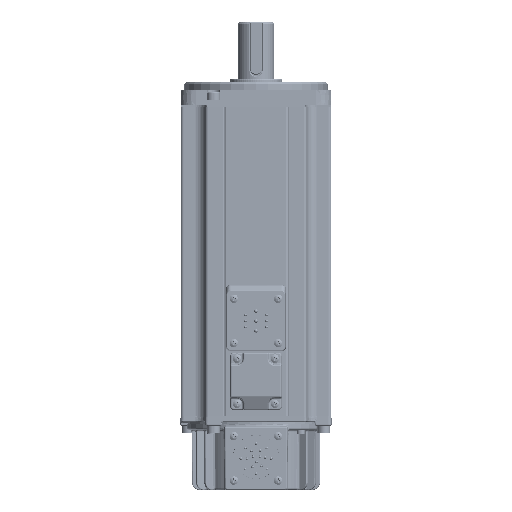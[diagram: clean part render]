
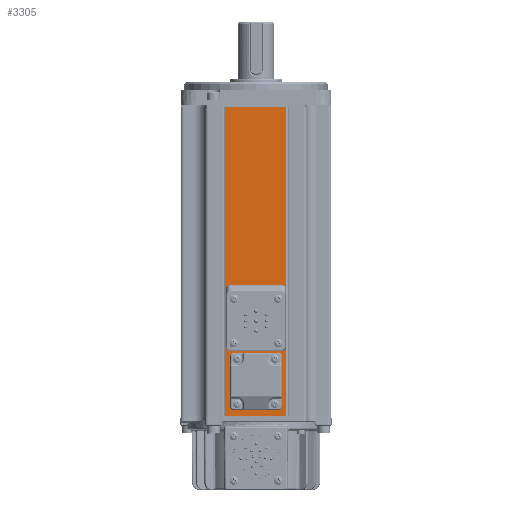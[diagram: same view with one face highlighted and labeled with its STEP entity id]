
A CAD part, front view. The second image highlights one B-rep face of the part: STEP entity #3305.
In plain terms, the highlighted planar face has unit normal (0, -1, 0).
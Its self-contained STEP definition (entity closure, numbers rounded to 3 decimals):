
#82=CARTESIAN_POINT('',(12.5,-50.,38.));
#83=DIRECTION('',(0.,1.,0.));
#84=DIRECTION('',(0.,0.,-1.));
#85=AXIS2_PLACEMENT_3D('',#82,#83,#84);
#87=CARTESIAN_POINT('',(12.5,-50.,38.));
#88=DIRECTION('',(0.,1.,0.));
#89=DIRECTION('',(0.,0.,1.));
#90=AXIS2_PLACEMENT_3D('',#87,#88,#89);
#92=CARTESIAN_POINT('',(-12.5,-50.,38.));
#93=DIRECTION('',(0.,1.,0.));
#94=DIRECTION('',(0.,0.,-1.));
#95=AXIS2_PLACEMENT_3D('',#92,#93,#94);
#97=CARTESIAN_POINT('',(-12.5,-50.,38.));
#98=DIRECTION('',(0.,1.,0.));
#99=DIRECTION('',(0.,0.,1.));
#100=AXIS2_PLACEMENT_3D('',#97,#98,#99);
#102=CARTESIAN_POINT('',(12.5,-50.,8.));
#103=DIRECTION('',(0.,1.,0.));
#104=DIRECTION('',(0.,0.,-1.));
#105=AXIS2_PLACEMENT_3D('',#102,#103,#104);
#107=CARTESIAN_POINT('',(12.5,-50.,8.));
#108=DIRECTION('',(0.,1.,0.));
#109=DIRECTION('',(0.,0.,1.));
#110=AXIS2_PLACEMENT_3D('',#107,#108,#109);
#112=CARTESIAN_POINT('',(-12.5,-50.,8.));
#113=DIRECTION('',(0.,1.,0.));
#114=DIRECTION('',(0.,0.,-1.));
#115=AXIS2_PLACEMENT_3D('',#112,#113,#114);
#117=CARTESIAN_POINT('',(-12.5,-50.,8.));
#118=DIRECTION('',(0.,1.,0.));
#119=DIRECTION('',(0.,0.,1.));
#120=AXIS2_PLACEMENT_3D('',#117,#118,#119);
#122=CARTESIAN_POINT('',(0.,-50.,31.5));
#123=DIRECTION('',(0.,1.,0.));
#124=DIRECTION('',(1.,0.,0.));
#125=AXIS2_PLACEMENT_3D('',#122,#123,#124);
#127=CARTESIAN_POINT('',(0.,-50.,31.5));
#128=DIRECTION('',(0.,1.,0.));
#129=DIRECTION('',(-1.,0.,0.));
#130=AXIS2_PLACEMENT_3D('',#127,#128,#129);
#132=CARTESIAN_POINT('',(0.,-50.,63.));
#133=DIRECTION('',(0.,1.,0.));
#134=DIRECTION('',(1.,0.,0.));
#135=AXIS2_PLACEMENT_3D('',#132,#133,#134);
#137=CARTESIAN_POINT('',(0.,-50.,63.));
#138=DIRECTION('',(0.,1.,0.));
#139=DIRECTION('',(-1.,0.,0.));
#140=AXIS2_PLACEMENT_3D('',#137,#138,#139);
#142=CARTESIAN_POINT('',(-14.68,-50.,77.68));
#143=DIRECTION('',(0.,1.,0.));
#144=DIRECTION('',(1.,0.,0.));
#145=AXIS2_PLACEMENT_3D('',#142,#143,#144);
#147=CARTESIAN_POINT('',(-14.68,-50.,77.68));
#148=DIRECTION('',(0.,1.,0.));
#149=DIRECTION('',(-1.,0.,0.));
#150=AXIS2_PLACEMENT_3D('',#147,#148,#149);
#152=CARTESIAN_POINT('',(14.68,-50.,77.68));
#153=DIRECTION('',(0.,1.,0.));
#154=DIRECTION('',(1.,0.,0.));
#155=AXIS2_PLACEMENT_3D('',#152,#153,#154);
#157=CARTESIAN_POINT('',(14.68,-50.,77.68));
#158=DIRECTION('',(0.,1.,0.));
#159=DIRECTION('',(-1.,0.,0.));
#160=AXIS2_PLACEMENT_3D('',#157,#158,#159);
#162=CARTESIAN_POINT('',(-14.68,-50.,48.32));
#163=DIRECTION('',(0.,1.,0.));
#164=DIRECTION('',(1.,0.,0.));
#165=AXIS2_PLACEMENT_3D('',#162,#163,#164);
#167=CARTESIAN_POINT('',(-14.68,-50.,48.32));
#168=DIRECTION('',(0.,1.,0.));
#169=DIRECTION('',(-1.,0.,0.));
#170=AXIS2_PLACEMENT_3D('',#167,#168,#169);
#172=CARTESIAN_POINT('',(14.68,-50.,48.32));
#173=DIRECTION('',(0.,1.,0.));
#174=DIRECTION('',(1.,0.,0.));
#175=AXIS2_PLACEMENT_3D('',#172,#173,#174);
#177=CARTESIAN_POINT('',(14.68,-50.,48.32));
#178=DIRECTION('',(0.,1.,0.));
#179=DIRECTION('',(-1.,0.,0.));
#180=AXIS2_PLACEMENT_3D('',#177,#178,#179);
#182=CARTESIAN_POINT('',(0.,-50.,79.));
#183=DIRECTION('',(0.,1.,0.));
#184=DIRECTION('',(1.,0.,0.));
#185=AXIS2_PLACEMENT_3D('',#182,#183,#184);
#187=CARTESIAN_POINT('',(0.,-50.,79.));
#188=DIRECTION('',(0.,1.,0.));
#189=DIRECTION('',(-1.,0.,0.));
#190=AXIS2_PLACEMENT_3D('',#187,#188,#189);
#192=DIRECTION('',(1.,0.,0.));
#193=VECTOR('',#192,39.317);
#194=CARTESIAN_POINT('',(-19.659,-50.,0.));
#195=LINE('',#194,#193);
#196=DIRECTION('',(0.,0.,-1.));
#197=VECTOR('',#196,205.);
#198=CARTESIAN_POINT('',(-19.659,-50.,205.));
#199=LINE('',#198,#197);
#200=DIRECTION('',(-1.,0.,0.));
#201=VECTOR('',#200,39.317);
#202=CARTESIAN_POINT('',(19.659,-50.,205.));
#203=LINE('',#202,#201);
#204=DIRECTION('',(0.,0.,1.));
#205=VECTOR('',#204,205.);
#206=CARTESIAN_POINT('',(19.659,-50.,0.));
#207=LINE('',#206,#205);
#2494=CARTESIAN_POINT('',(19.659,-50.,205.));
#2495=CARTESIAN_POINT('',(-19.659,-50.,205.));
#2496=VERTEX_POINT('',#2494);
#2497=VERTEX_POINT('',#2495);
#2570=CARTESIAN_POINT('',(-19.659,-50.,0.));
#2571=CARTESIAN_POINT('',(19.659,-50.,0.));
#2572=VERTEX_POINT('',#2570);
#2573=VERTEX_POINT('',#2571);
#2927=CARTESIAN_POINT('',(12.5,-50.,6.75));
#2929=VERTEX_POINT('',#2927);
#2930=CARTESIAN_POINT('',(12.5,-50.,9.25));
#2931=VERTEX_POINT('',#2930);
#2932=CARTESIAN_POINT('',(-12.5,-50.,63.));
#2933=CARTESIAN_POINT('',(12.5,-50.,63.));
#2934=VERTEX_POINT('',#2932);
#2935=VERTEX_POINT('',#2933);
#2936=CARTESIAN_POINT('',(-16.18,-50.,77.68));
#2937=CARTESIAN_POINT('',(-13.18,-50.,77.68));
#2938=VERTEX_POINT('',#2936);
#2939=VERTEX_POINT('',#2937);
#2940=CARTESIAN_POINT('',(-12.5,-50.,39.25));
#2941=CARTESIAN_POINT('',(-12.5,-50.,36.75));
#2942=VERTEX_POINT('',#2940);
#2943=VERTEX_POINT('',#2941);
#2945=CARTESIAN_POINT('',(-12.5,-50.,6.75));
#2947=VERTEX_POINT('',#2945);
#2948=CARTESIAN_POINT('',(-12.5,-50.,9.25));
#2949=VERTEX_POINT('',#2948);
#2955=CARTESIAN_POINT('',(-6.,-50.,31.5));
#2957=VERTEX_POINT('',#2955);
#2959=CARTESIAN_POINT('',(6.,-50.,31.5));
#2961=VERTEX_POINT('',#2959);
#2962=CARTESIAN_POINT('',(-1.5,-50.,79.));
#2963=CARTESIAN_POINT('',(1.5,-50.,79.));
#2964=VERTEX_POINT('',#2962);
#2965=VERTEX_POINT('',#2963);
#2966=CARTESIAN_POINT('',(13.18,-50.,48.32));
#2967=CARTESIAN_POINT('',(16.18,-50.,48.32));
#2968=VERTEX_POINT('',#2966);
#2969=VERTEX_POINT('',#2967);
#2970=CARTESIAN_POINT('',(-16.18,-50.,48.32));
#2971=CARTESIAN_POINT('',(-13.18,-50.,48.32));
#2972=VERTEX_POINT('',#2970);
#2973=VERTEX_POINT('',#2971);
#2974=CARTESIAN_POINT('',(13.18,-50.,77.68));
#2975=CARTESIAN_POINT('',(16.18,-50.,77.68));
#2976=VERTEX_POINT('',#2974);
#2977=VERTEX_POINT('',#2975);
#3016=CARTESIAN_POINT('',(12.5,-50.,39.25));
#3017=CARTESIAN_POINT('',(12.5,-50.,36.75));
#3018=VERTEX_POINT('',#3016);
#3019=VERTEX_POINT('',#3017);
#3226=CARTESIAN_POINT('',(-33.659,-50.,205.));
#3227=DIRECTION('',(0.,1.,0.));
#3228=DIRECTION('',(-1.,0.,0.));
#3229=AXIS2_PLACEMENT_3D('',#3226,#3227,#3228);
#3230=PLANE('',#3229);
#3232=ORIENTED_EDGE('',*,*,#3231,.F.);
#3234=ORIENTED_EDGE('',*,*,#3233,.F.);
#3236=ORIENTED_EDGE('',*,*,#3235,.F.);
#3238=ORIENTED_EDGE('',*,*,#3237,.F.);
#3239=EDGE_LOOP('',(#3232,#3234,#3236,#3238));
#3240=FACE_OUTER_BOUND('',#3239,.F.);
#3242=ORIENTED_EDGE('',*,*,#3241,.F.);
#3244=ORIENTED_EDGE('',*,*,#3243,.F.);
#3245=EDGE_LOOP('',(#3242,#3244));
#3246=FACE_BOUND('',#3245,.F.);
#3248=ORIENTED_EDGE('',*,*,#3247,.F.);
#3250=ORIENTED_EDGE('',*,*,#3249,.F.);
#3251=EDGE_LOOP('',(#3248,#3250));
#3252=FACE_BOUND('',#3251,.F.);
#3253=ORIENTED_EDGE('',*,*,#3204,.F.);
#3254=ORIENTED_EDGE('',*,*,#3109,.F.);
#3255=EDGE_LOOP('',(#3253,#3254));
#3256=FACE_BOUND('',#3255,.F.);
#3258=ORIENTED_EDGE('',*,*,#3257,.F.);
#3260=ORIENTED_EDGE('',*,*,#3259,.F.);
#3261=EDGE_LOOP('',(#3258,#3260));
#3262=FACE_BOUND('',#3261,.F.);
#3264=ORIENTED_EDGE('',*,*,#3263,.F.);
#3266=ORIENTED_EDGE('',*,*,#3265,.F.);
#3267=EDGE_LOOP('',(#3264,#3266));
#3268=FACE_BOUND('',#3267,.F.);
#3270=ORIENTED_EDGE('',*,*,#3269,.F.);
#3272=ORIENTED_EDGE('',*,*,#3271,.F.);
#3273=EDGE_LOOP('',(#3270,#3272));
#3274=FACE_BOUND('',#3273,.F.);
#3276=ORIENTED_EDGE('',*,*,#3275,.F.);
#3278=ORIENTED_EDGE('',*,*,#3277,.F.);
#3279=EDGE_LOOP('',(#3276,#3278));
#3280=FACE_BOUND('',#3279,.F.);
#3282=ORIENTED_EDGE('',*,*,#3281,.F.);
#3284=ORIENTED_EDGE('',*,*,#3283,.F.);
#3285=EDGE_LOOP('',(#3282,#3284));
#3286=FACE_BOUND('',#3285,.F.);
#3288=ORIENTED_EDGE('',*,*,#3287,.F.);
#3290=ORIENTED_EDGE('',*,*,#3289,.F.);
#3291=EDGE_LOOP('',(#3288,#3290));
#3292=FACE_BOUND('',#3291,.F.);
#3294=ORIENTED_EDGE('',*,*,#3293,.F.);
#3296=ORIENTED_EDGE('',*,*,#3295,.F.);
#3297=EDGE_LOOP('',(#3294,#3296));
#3298=FACE_BOUND('',#3297,.F.);
#3300=ORIENTED_EDGE('',*,*,#3299,.F.);
#3302=ORIENTED_EDGE('',*,*,#3301,.F.);
#3303=EDGE_LOOP('',(#3300,#3302));
#3304=FACE_BOUND('',#3303,.F.);
#3305=ADVANCED_FACE('',(#3240,#3246,#3252,#3256,#3262,#3268,#3274,#3280,#3286,
#3292,#3298,#3304),#3230,.F.);
#86=CIRCLE('',#85,1.25);
#91=CIRCLE('',#90,1.25);
#96=CIRCLE('',#95,1.25);
#101=CIRCLE('',#100,1.25);
#106=CIRCLE('',#105,1.25);
#111=CIRCLE('',#110,1.25);
#116=CIRCLE('',#115,1.25);
#121=CIRCLE('',#120,1.25);
#126=CIRCLE('',#125,6.);
#131=CIRCLE('',#130,6.);
#136=CIRCLE('',#135,12.5);
#141=CIRCLE('',#140,12.5);
#146=CIRCLE('',#145,1.5);
#151=CIRCLE('',#150,1.5);
#156=CIRCLE('',#155,1.5);
#161=CIRCLE('',#160,1.5);
#166=CIRCLE('',#165,1.5);
#171=CIRCLE('',#170,1.5);
#176=CIRCLE('',#175,1.5);
#181=CIRCLE('',#180,1.5);
#186=CIRCLE('',#185,1.5);
#191=CIRCLE('',#190,1.5);
#3109=EDGE_CURVE('',#2931,#2929,#111,.T.);
#3204=EDGE_CURVE('',#2929,#2931,#106,.T.);
#3231=EDGE_CURVE('',#2572,#2573,#195,.T.);
#3233=EDGE_CURVE('',#2497,#2572,#199,.T.);
#3235=EDGE_CURVE('',#2496,#2497,#203,.T.);
#3237=EDGE_CURVE('',#2573,#2496,#207,.T.);
#3241=EDGE_CURVE('',#3019,#3018,#86,.T.);
#3243=EDGE_CURVE('',#3018,#3019,#91,.T.);
#3247=EDGE_CURVE('',#2943,#2942,#96,.T.);
#3249=EDGE_CURVE('',#2942,#2943,#101,.T.);
#3257=EDGE_CURVE('',#2947,#2949,#116,.T.);
#3259=EDGE_CURVE('',#2949,#2947,#121,.T.);
#3263=EDGE_CURVE('',#2961,#2957,#126,.T.);
#3265=EDGE_CURVE('',#2957,#2961,#131,.T.);
#3269=EDGE_CURVE('',#2935,#2934,#136,.T.);
#3271=EDGE_CURVE('',#2934,#2935,#141,.T.);
#3275=EDGE_CURVE('',#2939,#2938,#146,.T.);
#3277=EDGE_CURVE('',#2938,#2939,#151,.T.);
#3281=EDGE_CURVE('',#2977,#2976,#156,.T.);
#3283=EDGE_CURVE('',#2976,#2977,#161,.T.);
#3287=EDGE_CURVE('',#2973,#2972,#166,.T.);
#3289=EDGE_CURVE('',#2972,#2973,#171,.T.);
#3293=EDGE_CURVE('',#2969,#2968,#176,.T.);
#3295=EDGE_CURVE('',#2968,#2969,#181,.T.);
#3299=EDGE_CURVE('',#2965,#2964,#186,.T.);
#3301=EDGE_CURVE('',#2964,#2965,#191,.T.);
